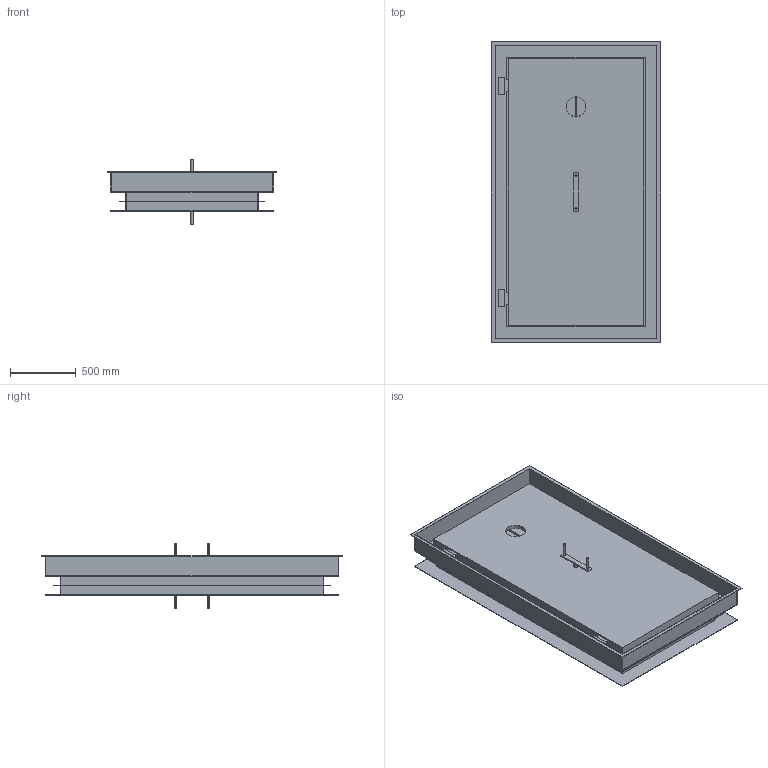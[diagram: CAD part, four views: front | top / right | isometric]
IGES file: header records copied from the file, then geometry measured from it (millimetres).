
Start section:  PTC IGES file: 51251463.igs
Global section: file name: 51251463.igs; native system: Creo Parametric by Parametric Technology Corporation; preprocessor: 2017170; author: ka; organization: Unknown; date: 20190412.081729; units: millimetre
Bounding box: 1290 x 2290 x 495 mm (x, y, z)
Surface area: 12930987.7 mm2 (no closed solid volume)
Topology: 0 solids, 0 shells, 118 faces, 548 edges, 548 vertices
Faces by surface type: bspline 100, revolution 18
